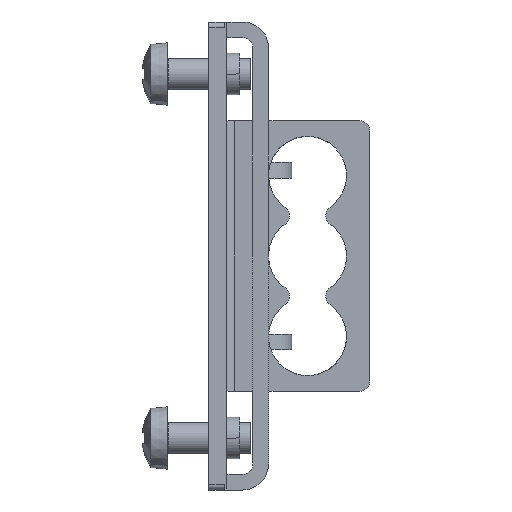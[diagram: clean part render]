
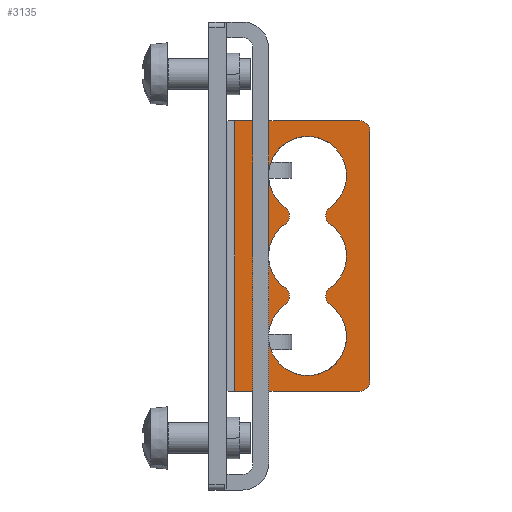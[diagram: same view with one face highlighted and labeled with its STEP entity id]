
A CAD part, front view. The second image highlights one B-rep face of the part: STEP entity #3135.
In plain terms, the highlighted planar face has unit normal (0, -1, 0).
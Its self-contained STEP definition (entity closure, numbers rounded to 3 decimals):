
#388=DIRECTION('',(-1.,0.,0.));
#389=VECTOR('',#388,12.);
#390=CARTESIAN_POINT('',(14.5,-18.5,13.));
#391=LINE('',#390,#389);
#414=DIRECTION('',(0.,0.,1.));
#415=VECTOR('',#414,24.);
#416=CARTESIAN_POINT('',(15.5,-18.5,-12.));
#417=LINE('',#416,#415);
#422=CARTESIAN_POINT('',(14.5,-18.5,12.));
#423=DIRECTION('',(0.,1.,0.));
#424=DIRECTION('',(0.,0.,1.));
#425=AXIS2_PLACEMENT_3D('',#422,#423,#424);
#427=CARTESIAN_POINT('',(14.5,-18.5,-12.));
#428=DIRECTION('',(0.,1.,0.));
#429=DIRECTION('',(1.,0.,0.));
#430=AXIS2_PLACEMENT_3D('',#427,#428,#429);
#432=CARTESIAN_POINT('',(9.5,-18.5,7.75));
#433=DIRECTION('',(0.,-1.,0.));
#434=DIRECTION('',(0.578,0.,-0.816));
#435=AXIS2_PLACEMENT_3D('',#432,#433,#434);
#437=CARTESIAN_POINT('',(9.5,-18.5,7.75));
#438=DIRECTION('',(0.,-1.,0.));
#439=DIRECTION('',(0.578,0.,0.816));
#440=AXIS2_PLACEMENT_3D('',#437,#438,#439);
#442=CARTESIAN_POINT('',(9.5,-18.5,7.75));
#443=DIRECTION('',(0.,-1.,0.));
#444=DIRECTION('',(-0.578,0.,0.816));
#445=AXIS2_PLACEMENT_3D('',#442,#443,#444);
#447=CARTESIAN_POINT('',(6.753,-18.5,3.875));
#448=DIRECTION('',(0.,1.,0.));
#449=DIRECTION('',(0.578,0.,0.816));
#450=AXIS2_PLACEMENT_3D('',#447,#448,#449);
#452=CARTESIAN_POINT('',(9.5,-18.5,0.));
#453=DIRECTION('',(0.,-1.,0.));
#454=DIRECTION('',(-0.578,0.,0.816));
#455=AXIS2_PLACEMENT_3D('',#452,#453,#454);
#457=CARTESIAN_POINT('',(6.753,-18.5,-3.875));
#458=DIRECTION('',(0.,1.,0.));
#459=DIRECTION('',(0.578,0.,0.816));
#460=AXIS2_PLACEMENT_3D('',#457,#458,#459);
#462=CARTESIAN_POINT('',(9.5,-18.5,-7.75));
#463=DIRECTION('',(0.,-1.,0.));
#464=DIRECTION('',(-0.578,0.,0.816));
#465=AXIS2_PLACEMENT_3D('',#462,#463,#464);
#467=CARTESIAN_POINT('',(9.5,-18.5,-7.75));
#468=DIRECTION('',(0.,-1.,0.));
#469=DIRECTION('',(-0.578,0.,-0.816));
#470=AXIS2_PLACEMENT_3D('',#467,#468,#469);
#472=CARTESIAN_POINT('',(9.5,-18.5,-7.75));
#473=DIRECTION('',(0.,-1.,0.));
#474=DIRECTION('',(0.578,0.,-0.816));
#475=AXIS2_PLACEMENT_3D('',#472,#473,#474);
#477=CARTESIAN_POINT('',(12.247,-18.5,-3.875));
#478=DIRECTION('',(0.,1.,0.));
#479=DIRECTION('',(-0.578,0.,-0.816));
#480=AXIS2_PLACEMENT_3D('',#477,#478,#479);
#482=CARTESIAN_POINT('',(9.5,-18.5,0.));
#483=DIRECTION('',(0.,-1.,0.));
#484=DIRECTION('',(0.578,0.,-0.816));
#485=AXIS2_PLACEMENT_3D('',#482,#483,#484);
#487=CARTESIAN_POINT('',(12.247,-18.5,3.875));
#488=DIRECTION('',(0.,1.,0.));
#489=DIRECTION('',(-0.578,0.,-0.816));
#490=AXIS2_PLACEMENT_3D('',#487,#488,#489);
#506=DIRECTION('',(1.,0.,0.));
#507=VECTOR('',#506,12.);
#508=CARTESIAN_POINT('',(2.5,-18.5,-13.));
#509=LINE('',#508,#507);
#630=DIRECTION('',(0.,0.,-1.));
#631=VECTOR('',#630,26.);
#632=CARTESIAN_POINT('',(2.5,-18.5,13.));
#633=LINE('',#632,#631);
#2246=CARTESIAN_POINT('',(2.5,-18.5,-13.));
#2247=VERTEX_POINT('',#2246);
#2248=CARTESIAN_POINT('',(14.5,-18.5,-13.));
#2249=VERTEX_POINT('',#2248);
#2278=CARTESIAN_POINT('',(15.5,-18.5,-12.));
#2279=CARTESIAN_POINT('',(15.5,-18.5,12.));
#2280=VERTEX_POINT('',#2278);
#2281=VERTEX_POINT('',#2279);
#2282=CARTESIAN_POINT('',(2.5,-18.5,13.));
#2283=VERTEX_POINT('',#2282);
#2284=CARTESIAN_POINT('',(14.5,-18.5,13.));
#2285=VERTEX_POINT('',#2284);
#2286=CARTESIAN_POINT('',(11.669,-18.5,4.691));
#2287=CARTESIAN_POINT('',(11.669,-18.5,10.809));
#2288=VERTEX_POINT('',#2286);
#2289=VERTEX_POINT('',#2287);
#2290=CARTESIAN_POINT('',(7.331,-18.5,10.809));
#2291=VERTEX_POINT('',#2290);
#2292=CARTESIAN_POINT('',(7.331,-18.5,4.691));
#2293=VERTEX_POINT('',#2292);
#2294=CARTESIAN_POINT('',(7.331,-18.5,3.059));
#2295=VERTEX_POINT('',#2294);
#2296=CARTESIAN_POINT('',(7.331,-18.5,-3.059));
#2297=VERTEX_POINT('',#2296);
#2298=CARTESIAN_POINT('',(7.331,-18.5,-4.691));
#2299=VERTEX_POINT('',#2298);
#2300=CARTESIAN_POINT('',(7.331,-18.5,-10.809));
#2301=VERTEX_POINT('',#2300);
#2302=CARTESIAN_POINT('',(11.669,-18.5,-10.809));
#2303=VERTEX_POINT('',#2302);
#2304=CARTESIAN_POINT('',(11.669,-18.5,-4.691));
#2305=VERTEX_POINT('',#2304);
#2306=CARTESIAN_POINT('',(11.669,-18.5,-3.059));
#2307=VERTEX_POINT('',#2306);
#2308=CARTESIAN_POINT('',(11.669,-18.5,3.059));
#2309=VERTEX_POINT('',#2308);
#3093=CARTESIAN_POINT('',(0.,-18.5,0.));
#3094=DIRECTION('',(0.,1.,0.));
#3095=DIRECTION('',(-1.,0.,0.));
#3096=AXIS2_PLACEMENT_3D('',#3093,#3094,#3095);
#3097=PLANE('',#3096);
#3099=ORIENTED_EDGE('',*,*,#3098,.F.);
#3101=ORIENTED_EDGE('',*,*,#3100,.F.);
#3102=ORIENTED_EDGE('',*,*,#3030,.F.);
#3103=ORIENTED_EDGE('',*,*,#3056,.T.);
#3104=ORIENTED_EDGE('',*,*,#3076,.F.);
#3106=ORIENTED_EDGE('',*,*,#3105,.T.);
#3107=EDGE_LOOP('',(#3099,#3101,#3102,#3103,#3104,#3106));
#3108=FACE_OUTER_BOUND('',#3107,.F.);
#3110=ORIENTED_EDGE('',*,*,#3109,.T.);
#3112=ORIENTED_EDGE('',*,*,#3111,.T.);
#3114=ORIENTED_EDGE('',*,*,#3113,.T.);
#3116=ORIENTED_EDGE('',*,*,#3115,.T.);
#3118=ORIENTED_EDGE('',*,*,#3117,.T.);
#3120=ORIENTED_EDGE('',*,*,#3119,.T.);
#3122=ORIENTED_EDGE('',*,*,#3121,.T.);
#3124=ORIENTED_EDGE('',*,*,#3123,.T.);
#3126=ORIENTED_EDGE('',*,*,#3125,.T.);
#3128=ORIENTED_EDGE('',*,*,#3127,.T.);
#3130=ORIENTED_EDGE('',*,*,#3129,.T.);
#3132=ORIENTED_EDGE('',*,*,#3131,.T.);
#3133=EDGE_LOOP('',(#3110,#3112,#3114,#3116,#3118,#3120,#3122,#3124,#3126,#3128,
#3130,#3132));
#3134=FACE_BOUND('',#3133,.F.);
#426=CIRCLE('',#425,1.);
#431=CIRCLE('',#430,1.);
#436=CIRCLE('',#435,3.75);
#441=CIRCLE('',#440,3.75);
#446=CIRCLE('',#445,3.75);
#451=CIRCLE('',#450,1.);
#456=CIRCLE('',#455,3.75);
#461=CIRCLE('',#460,1.);
#466=CIRCLE('',#465,3.75);
#471=CIRCLE('',#470,3.75);
#476=CIRCLE('',#475,3.75);
#481=CIRCLE('',#480,1.);
#486=CIRCLE('',#485,3.75);
#491=CIRCLE('',#490,1.);
#3030=EDGE_CURVE('',#2285,#2283,#391,.T.);
#3056=EDGE_CURVE('',#2285,#2281,#426,.T.);
#3076=EDGE_CURVE('',#2280,#2281,#417,.T.);
#3098=EDGE_CURVE('',#2247,#2249,#509,.T.);
#3100=EDGE_CURVE('',#2283,#2247,#633,.T.);
#3105=EDGE_CURVE('',#2280,#2249,#431,.T.);
#3109=EDGE_CURVE('',#2288,#2289,#436,.T.);
#3111=EDGE_CURVE('',#2289,#2291,#441,.T.);
#3113=EDGE_CURVE('',#2291,#2293,#446,.T.);
#3115=EDGE_CURVE('',#2293,#2295,#451,.T.);
#3117=EDGE_CURVE('',#2295,#2297,#456,.T.);
#3119=EDGE_CURVE('',#2297,#2299,#461,.T.);
#3121=EDGE_CURVE('',#2299,#2301,#466,.T.);
#3123=EDGE_CURVE('',#2301,#2303,#471,.T.);
#3125=EDGE_CURVE('',#2303,#2305,#476,.T.);
#3127=EDGE_CURVE('',#2305,#2307,#481,.T.);
#3129=EDGE_CURVE('',#2307,#2309,#486,.T.);
#3131=EDGE_CURVE('',#2309,#2288,#491,.T.);
#3135=ADVANCED_FACE('',(#3108,#3134),#3097,.F.);
